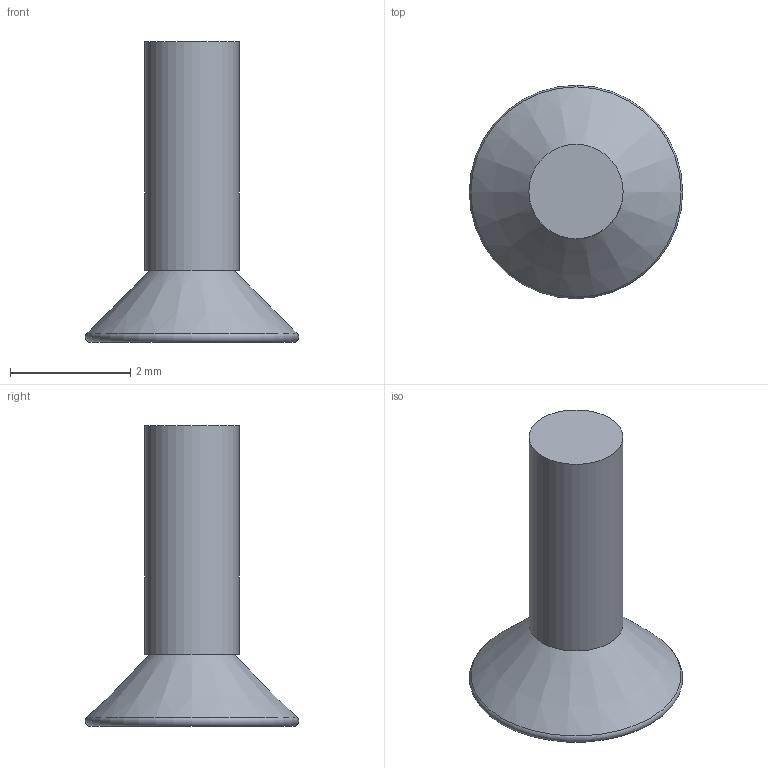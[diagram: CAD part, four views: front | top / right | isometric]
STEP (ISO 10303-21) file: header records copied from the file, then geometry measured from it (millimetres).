
FILE_DESCRIPTION(('Open CASCADE Model'),'2;1');
FILE_NAME('C27_R2_HW_Speaker_1_-9.1','2026-09-09T17:52:57',('Author'),( 'Open CASCADE'),'Open CASCADE STEP processor 7.9','build123d', 'Unknown');
FILE_SCHEMA(('AUTOMOTIVE_DESIGN { 1 0 10303 214 1 1 1 1 }'));
Length unit declared in the file: millimetre
Products named in the file (2): C27_R2_HW_Speaker_1_-9.1
Assembly tree (1 placements, depth 2):
  C27_R2_HW_Speaker_1_-9.1
    C27_R2_HW_Speaker_1_-9.1
Bounding box: 3.55 x 3.55 x 5 mm (x, y, z)
Volume: 13.4 mm3; surface area: 46.5 mm2
Topology: 1 solids, 1 shells, 27 faces, 68 edges, 45 vertices
Faces by surface type: bspline 20, plane 4, cylinder 1, cone 1, torus 1
Full cylindrical faces by diameter (mm): 1.567 x1
Entity records: 1844 total; most frequent: CARTESIAN_POINT 514, DIRECTION 208, ORIENTED_EDGE 136, PCURVE 136, DEFINITIONAL_REPRESENTATION 136, LINE 106, VECTOR 106, EDGE_CURVE 68
